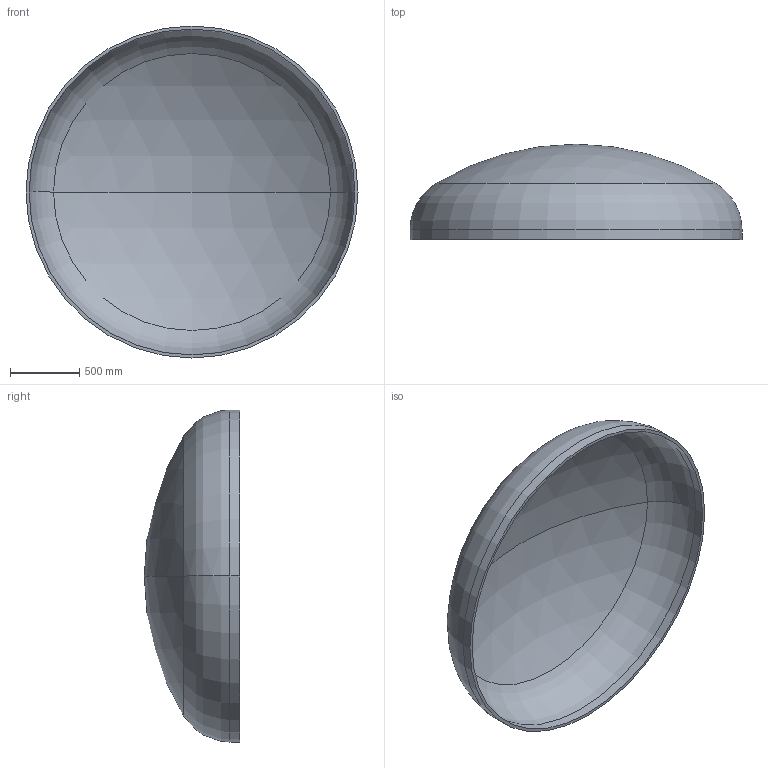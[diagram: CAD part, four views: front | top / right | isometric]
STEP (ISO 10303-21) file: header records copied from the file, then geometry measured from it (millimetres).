
FILE_DESCRIPTION (( 'STEP AP203' ), '1' );
FILE_NAME ('DIN 28013 Korbbogenform_-_Boden DIN 28013 - 2400 x 70 - I - s=22.step', '2016-07-01T15:10:53', ( '' ), ( '' ), 'SwSTEP 2.0', 'SolidWorks 2013', '' );
FILE_SCHEMA (( 'CONFIG_CONTROL_DESIGN' ));
Length unit declared in the file: millimetre
Products named in the file (1): DIN 28013 Korbbogenform_-_Boden DIN 28013 - 2400 x 70 - I - s=22
Bounding box: 2400 x 689.26 x 2400 mm (x, y, z)
Volume: 147714688.8 mm3; surface area: 13593972.3 mm2
Topology: 1 solids, 1 shells, 13 faces, 24 edges, 14 vertices
Faces by surface type: torus 4, cylinder 4, sphere 4, plane 1
Entity records: 407 total; most frequent: DIRECTION 72, CARTESIAN_POINT 52, ORIENTED_EDGE 48, AXIS2_PLACEMENT_3D 34, EDGE_CURVE 24, CIRCLE 20, EDGE_LOOP 14, VERTEX_POINT 14
